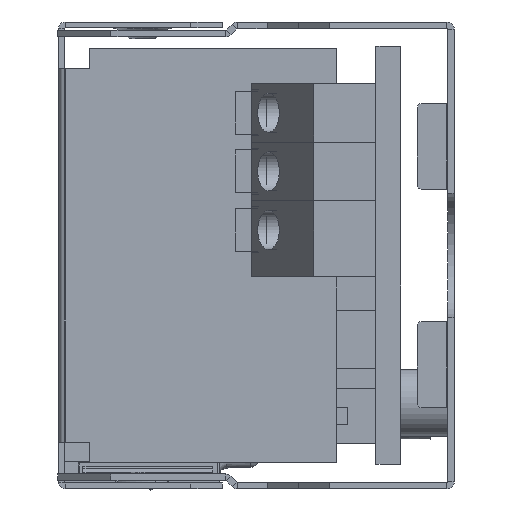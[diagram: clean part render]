
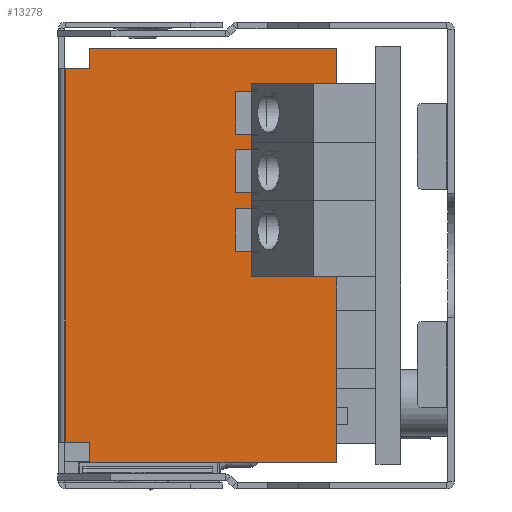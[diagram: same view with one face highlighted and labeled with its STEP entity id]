
A CAD part, left-side view. The second image highlights one B-rep face of the part: STEP entity #13278.
In plain terms, the highlighted planar face has unit normal (-1, 0, 0).
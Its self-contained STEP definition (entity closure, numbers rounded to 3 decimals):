
#76 = CARTESIAN_POINT ( 'NONE',  ( -114.975, -0.432, -11.985 ) ) ;
#317 = VERTEX_POINT ( 'NONE', #10977 ) ;
#335 = AXIS2_PLACEMENT_3D ( 'NONE', #17112, #16614, #16581 ) ;
#470 = CARTESIAN_POINT ( 'NONE',  ( -114.975, -0.432, 11.985 ) ) ;
#652 = FACE_OUTER_BOUND ( 'NONE', #2569, .T. ) ;
#1022 = VERTEX_POINT ( 'NONE', #14895 ) ;
#1226 = EDGE_CURVE ( 'NONE', #1022, #317, #9788, .T. ) ;
#1442 = EDGE_CURVE ( 'NONE', #8891, #15909, #8195, .T. ) ;
#2569 = EDGE_LOOP ( 'NONE', ( #21165, #25329, #17204, #20011, #15527, #20028, #16965, #14780 ) ) ;
#3654 = DIRECTION ( 'NONE',  ( 0., -1., 0. ) ) ;
#3885 = CARTESIAN_POINT ( 'NONE',  ( -114.975, 0., -11.985 ) ) ;
#7291 = EDGE_CURVE ( 'NONE', #29272, #1022, #9134, .T. ) ;
#7735 = LINE ( 'NONE', #17442, #21551 ) ;
#8195 = LINE ( 'NONE', #26514, #8235 ) ;
#8235 = VECTOR ( 'NONE', #27183, 1000. ) ;
#8772 = LINE ( 'NONE', #11505, #31708 ) ;
#8891 = VERTEX_POINT ( 'NONE', #16489 ) ;
#9024 = VECTOR ( 'NONE', #35674, 1000. ) ;
#9134 = LINE ( 'NONE', #3885, #9024 ) ;
#9749 = VECTOR ( 'NONE', #34530, 1000. ) ;
#9788 = LINE ( 'NONE', #34405, #9749 ) ;
#10977 = CARTESIAN_POINT ( 'NONE',  ( -114.975, -2., -13.285 ) ) ;
#11295 = VECTOR ( 'NONE', #29587, 1000. ) ;
#11481 = EDGE_CURVE ( 'NONE', #29272, #16549, #7735, .T. ) ;
#11505 = CARTESIAN_POINT ( 'NONE',  ( -114.975, -17.868, 0. ) ) ;
#12185 = VECTOR ( 'NONE', #34520, 1000. ) ;
#12230 = VERTEX_POINT ( 'NONE', #18703 ) ;
#13278 = ADVANCED_FACE ( 'NONE', ( #652 ), #17192, .F. ) ;
#14285 = DIRECTION ( 'NONE',  ( 0., 0., 1. ) ) ;
#14780 = ORIENTED_EDGE ( 'NONE', *, *, #11481, .F. ) ;
#14895 = CARTESIAN_POINT ( 'NONE',  ( -114.975, -2., -11.985 ) ) ;
#15527 = ORIENTED_EDGE ( 'NONE', *, *, #31101, .T. ) ;
#15839 = CARTESIAN_POINT ( 'NONE',  ( -114.975, 0., 11.985 ) ) ;
#15909 = VERTEX_POINT ( 'NONE', #32444 ) ;
#16489 = CARTESIAN_POINT ( 'NONE',  ( -114.975, -2., 13.285 ) ) ;
#16549 = VERTEX_POINT ( 'NONE', #470 ) ;
#16581 = DIRECTION ( 'NONE',  ( 0., 1., 0. ) ) ;
#16614 = DIRECTION ( 'NONE',  ( 1., 0., 0. ) ) ;
#16965 = ORIENTED_EDGE ( 'NONE', *, *, #24586, .T. ) ;
#17112 = CARTESIAN_POINT ( 'NONE',  ( -114.975, 0., 0. ) ) ;
#17192 = PLANE ( 'NONE',  #335 ) ;
#17204 = ORIENTED_EDGE ( 'NONE', *, *, #27820, .T. ) ;
#17442 = CARTESIAN_POINT ( 'NONE',  ( -114.975, -0.432, 11.985 ) ) ;
#17742 = DIRECTION ( 'NONE',  ( 0., 0., 1. ) ) ;
#18703 = CARTESIAN_POINT ( 'NONE',  ( -114.975, -17.868, -13.285 ) ) ;
#18835 = VECTOR ( 'NONE', #3654, 1000. ) ;
#19330 = CARTESIAN_POINT ( 'NONE',  ( -114.975, -17.868, 13.285 ) ) ;
#19487 = LINE ( 'NONE', #15839, #11295 ) ;
#20011 = ORIENTED_EDGE ( 'NONE', *, *, #30414, .T. ) ;
#20028 = ORIENTED_EDGE ( 'NONE', *, *, #1442, .T. ) ;
#21165 = ORIENTED_EDGE ( 'NONE', *, *, #7291, .T. ) ;
#21551 = VECTOR ( 'NONE', #17742, 1000. ) ;
#22983 = CARTESIAN_POINT ( 'NONE',  ( -114.975, -2., -13.285 ) ) ;
#24311 = VERTEX_POINT ( 'NONE', #19330 ) ;
#24586 = EDGE_CURVE ( 'NONE', #15909, #16549, #19487, .T. ) ;
#25329 = ORIENTED_EDGE ( 'NONE', *, *, #1226, .T. ) ;
#26139 = LINE ( 'NONE', #22983, #18835 ) ;
#26514 = CARTESIAN_POINT ( 'NONE',  ( -114.975, -2., -13.285 ) ) ;
#26810 = LINE ( 'NONE', #31736, #12185 ) ;
#27183 = DIRECTION ( 'NONE',  ( 0., 0., -1. ) ) ;
#27820 = EDGE_CURVE ( 'NONE', #317, #12230, #26139, .T. ) ;
#29272 = VERTEX_POINT ( 'NONE', #76 ) ;
#29587 = DIRECTION ( 'NONE',  ( 0., 1., 0. ) ) ;
#30414 = EDGE_CURVE ( 'NONE', #12230, #24311, #8772, .T. ) ;
#31101 = EDGE_CURVE ( 'NONE', #24311, #8891, #26810, .T. ) ;
#31708 = VECTOR ( 'NONE', #14285, 1000. ) ;
#31736 = CARTESIAN_POINT ( 'NONE',  ( -114.975, -2., 13.285 ) ) ;
#32444 = CARTESIAN_POINT ( 'NONE',  ( -114.975, -2., 11.985 ) ) ;
#34405 = CARTESIAN_POINT ( 'NONE',  ( -114.975, -2., -13.285 ) ) ;
#34520 = DIRECTION ( 'NONE',  ( 0., 1., 0. ) ) ;
#34530 = DIRECTION ( 'NONE',  ( 0., 0., -1. ) ) ;
#35674 = DIRECTION ( 'NONE',  ( 0., -1., 0. ) ) ;
